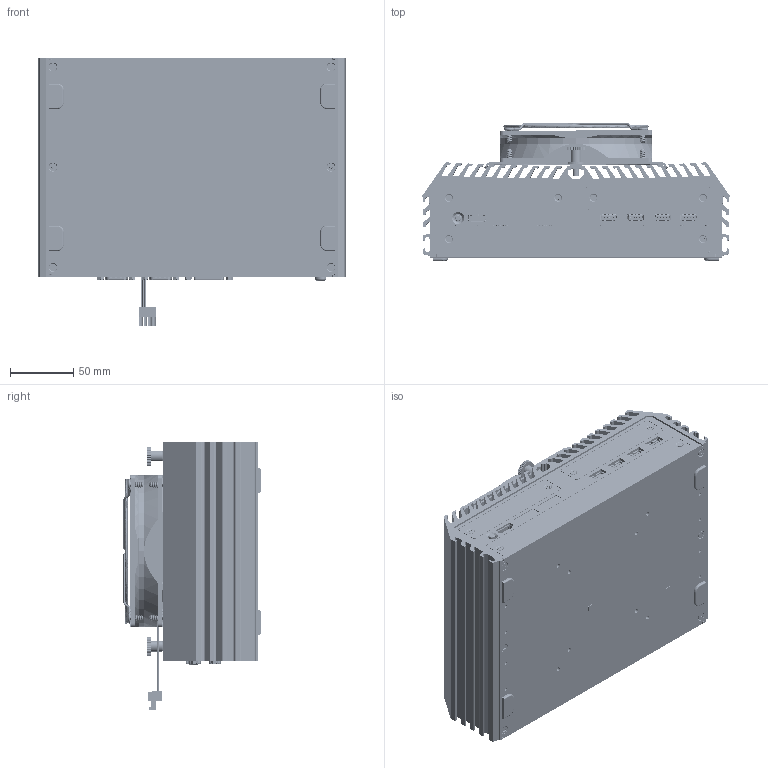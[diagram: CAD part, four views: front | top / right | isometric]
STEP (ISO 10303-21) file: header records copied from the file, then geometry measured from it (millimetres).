
FILE_DESCRIPTION (( 'STEP AP203' ), '1' );
FILE_NAME ('DX-1200+FAN_20230515.STEP', '2023-05-15T10:44:49', ( '' ), ( '' ), 'SwSTEP 2.0', 'SolidWorks 2014', '' );
FILE_SCHEMA (( 'CONFIG_CONTROL_DESIGN' ));
Length unit declared in the file: millimetre
Products named in the file (48): 12-PLATE_9; Copper Stud_S38400B25N01(M3-COSD6L00000); MANIFOLD_SOLID_BREP_906_1_1; D-SUB 9_雙層_D20H1P1PA112A111N2(23-D0101100181); RUUVI_1_1; Front Bezel(M1-408110024100); M5-SP_3; F頭_M3x5(T10)(120)_黑(M3-N103052230); MANIFOLD_SOLID_BREP_907_1_1; Terminal Block_ECH350R-04P(23-D0341500040); MANIFOLD_SOLID_BREP_899_1_1; Rear Bezel(M1-408100031200); ROTOR_120MM_FAN_2_2; F頭_M3X8(T10)(90)_黑(M3-N103082260); MANIFOLD_SOLID_BREP_908_1_1; DVI-1-H-RISE(23-D0092300293); 120_X_120_X_25_DC_FAN_ASM_3_ASM_ASM; MANIFOLD_SOLID_BREP_900_1_1; Front Matching Bezel(CNC)(M1-408100081220); VOLUMENK_S_VRPER1-4576_2_2; F頭_M3x18(T10)(120)+溝槽_黑(M3-1103182270); RITILA_ASM_1_ASM_4_ASM; RJ45+USB3.0x2_三層_JFM38U1B_B313_4F(23-D0202300320); MANIFOLD_SOLID_BREP_901_1_1; Small Matching Bezel(M1-408100081200); P頭_M5x8(十字)(太陽華司)(M3-SCREAB00002) ; 外接電源B-4腳; DC_IN1_5EHDRM-03P_8(23-D0341500030); MANIFOLD_SOLID_BREP_902_1_1; DP1_Displayport_(23-D0242300200); Hole_Plug,MHD-7(M4-RUBR0100000); 12_ASM_23_ASM; USB3.0_SMT_122-0921NA0504(23-S0142300090); MANIFOLD_SOLID_BREP_903_1_1; PWR_BTN_TC003; Top Cover; Rubber Foot(M4-RUFT0100001); DX-1200+FAN_20230515; WHDM-19FLBSDR; MANIFOLD_SOLID_BREP_904_1_1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
Assembly tree (91 placements, depth 4):
  DX-1200+FAN_20230515
    Top Cover(M1-408100006300)
      Top Cover
    Bottom Cover(M1-408100011100)
    Front Bezel(M1-408110024100)
    Rear Bezel(M1-408100031200)
    Front Matching Bezel(CNC)(M1-408100081220)
    Small Matching Bezel(M1-408100081200)  x4
    Main Board
      DP1_Displayport_(23-D0242300200)
      PWR_BTN_TC003
      Terminal Block_ECH350R-02P(23-D0341500020)
      Audio Jack_雙層_T-A032134001(23-D0262300090)
      D-SUB 9_雙層_D20H1P1PA112A111N2(23-D0101100181)  x2
      Terminal Block_ECH350R-04P(23-D0341500040)
      DVI-1-H-RISE(23-D0092300293)
      RJ45+USB3.0x2_三層_JFM38U1B_B313_4F(23-D0202300320)  x2
      DC_IN1_5EHDRM-03P_8(23-D0341500030)
      USB3.0_SMT_122-0921NA0504(23-S0142300090)  x4
      WHDM-19FLBSDR
    Copper Stud_S38400B25N01(M3-COSD6L00000)  x10
    F頭_M3x5(T10)(120)_黑(M3-N103052230)  x8
    F頭_M3X8(T10)(90)_黑(M3-N103082260)  x6
    F頭_M3x18(T10)(120)+溝槽_黑(M3-1103182270)  x2
    P頭_M5x8(十字)(太陽華司)(M3-SCREAB00002) 
    Hole_Plug,MHD-7(M4-RUBR0100000)  x3
    Rubber Foot(M4-RUFT0100001)  x4
    Symbol_Panel(M0-ZZZZ5C3003)
    12_ASM_23_ASM
      12-PLATE_9
      M5-SP_3  x2
      120_X_120_X_25_DC_FAN_ASM_3_ASM_ASM
        ROTOR_120MM_FAN_2_2
        VOLUMENK_S_VRPER1-4576_2_2
      NUT-M4_12  x2
      RUUVI_1_1  x8
      RITILA_ASM_1_ASM_4_ASM
        MANIFOLD_SOLID_BREP_899_1_1
        MANIFOLD_SOLID_BREP_900_1_1
        MANIFOLD_SOLID_BREP_901_1_1
        MANIFOLD_SOLID_BREP_902_1_1
        MANIFOLD_SOLID_BREP_903_1_1
        MANIFOLD_SOLID_BREP_904_1_1
        MANIFOLD_SOLID_BREP_905_1_1
        MANIFOLD_SOLID_BREP_906_1_1
        MANIFOLD_SOLID_BREP_907_1_1
        MANIFOLD_SOLID_BREP_908_1_1
      外接電源B-4腳
Bounding box: 242.18 x 108.08 x 212.09 mm (x, y, z)
Volume: 884773.5 mm3; surface area: 610109.1 mm2
Topology: 125 solids, 296 shells, 26883 faces, 75339 edges, 48593 vertices
Faces by surface type: plane 16559, cylinder 7961, bspline 1614, cone 547, torus 199, sphere 3
Entity records: 597277 total; most frequent: CARTESIAN_POINT 174121, ORIENTED_EDGE 92324, DIRECTION 78829, EDGE_CURVE 46275, LINE 32675, VECTOR 32675, VERTEX_POINT 29954, AXIS2_PLACEMENT_3D 23077
